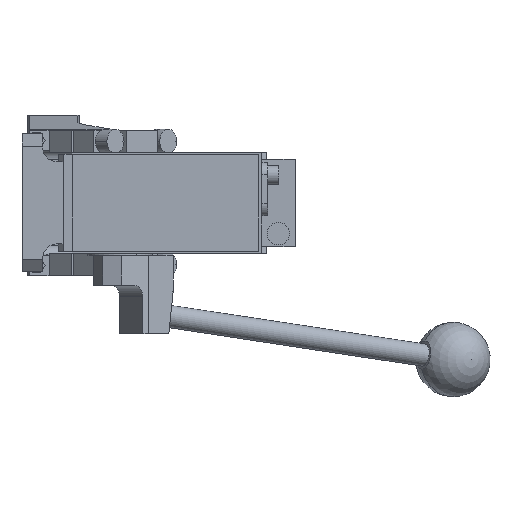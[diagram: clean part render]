
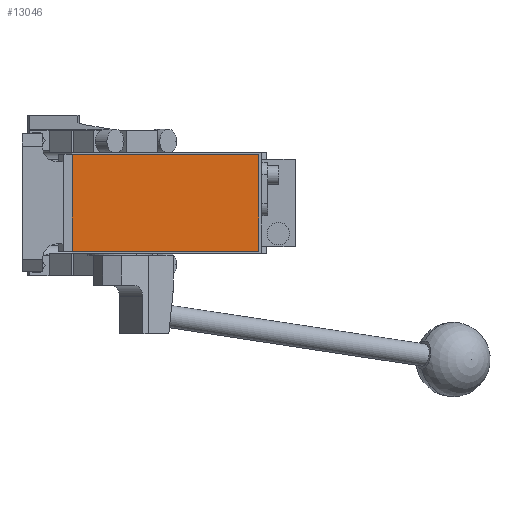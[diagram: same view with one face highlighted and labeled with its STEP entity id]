
A CAD part, front view. The second image highlights one B-rep face of the part: STEP entity #13046.
In plain terms, the highlighted planar face has unit normal (0, -1, 0).
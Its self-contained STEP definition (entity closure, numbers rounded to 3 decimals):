
#102 = VECTOR ( 'NONE', #3456, 1000. ) ;
#895 = VECTOR ( 'NONE', #3961, 1000. ) ;
#1161 = VECTOR ( 'NONE', #9818, 1000. ) ;
#1184 = LINE ( 'NONE', #6143, #895 ) ;
#1386 = CARTESIAN_POINT ( 'NONE',  ( -19., -286.5, -26. ) ) ;
#1446 = CARTESIAN_POINT ( 'NONE',  ( -19., -286.5, -26. ) ) ;
#1495 = VERTEX_POINT ( 'NONE', #4852 ) ;
#2807 = EDGE_CURVE ( 'NONE', #7432, #14443, #11625, .T. ) ;
#3135 = CARTESIAN_POINT ( 'NONE',  ( 0., -286.5, 0. ) ) ;
#3456 = DIRECTION ( 'NONE',  ( -1., 0., 0. ) ) ;
#3547 = LINE ( 'NONE', #12501, #102 ) ;
#3961 = DIRECTION ( 'NONE',  ( 0., 0., 1. ) ) ;
#4031 = VECTOR ( 'NONE', #9115, 1000. ) ;
#4293 = FACE_OUTER_BOUND ( 'NONE', #10679, .T. ) ;
#4747 = VERTEX_POINT ( 'NONE', #12621 ) ;
#4852 = CARTESIAN_POINT ( 'NONE',  ( -19., -286.5, 26. ) ) ;
#5834 = LINE ( 'NONE', #10939, #1161 ) ;
#6143 = CARTESIAN_POINT ( 'NONE',  ( 81., -286.5, 26. ) ) ;
#7432 = VERTEX_POINT ( 'NONE', #1386 ) ;
#7882 = CARTESIAN_POINT ( 'NONE',  ( 81., -286.5, -26. ) ) ;
#9115 = DIRECTION ( 'NONE',  ( 1., 0., 0. ) ) ;
#9406 = DIRECTION ( 'NONE',  ( 0., 0., -1. ) ) ;
#9818 = DIRECTION ( 'NONE',  ( 0., 0., -1. ) ) ;
#10526 = DIRECTION ( 'NONE',  ( 0., -1., 0. ) ) ;
#10679 = EDGE_LOOP ( 'NONE', ( #10757, #12248, #10806, #15104 ) ) ;
#10757 = ORIENTED_EDGE ( 'NONE', *, *, #14683, .T. ) ;
#10806 = ORIENTED_EDGE ( 'NONE', *, *, #16049, .T. ) ;
#10939 = CARTESIAN_POINT ( 'NONE',  ( -19., -286.5, 26. ) ) ;
#11625 = LINE ( 'NONE', #1446, #4031 ) ;
#12248 = ORIENTED_EDGE ( 'NONE', *, *, #2807, .T. ) ;
#12501 = CARTESIAN_POINT ( 'NONE',  ( -19., -286.5, 26. ) ) ;
#12621 = CARTESIAN_POINT ( 'NONE',  ( 81., -286.5, 26. ) ) ;
#13046 = ADVANCED_FACE ( 'NONE', ( #4293 ), #15586, .T. ) ;
#13428 = AXIS2_PLACEMENT_3D ( 'NONE', #3135, #10526, #9406 ) ;
#14443 = VERTEX_POINT ( 'NONE', #7882 ) ;
#14683 = EDGE_CURVE ( 'NONE', #1495, #7432, #5834, .T. ) ;
#15104 = ORIENTED_EDGE ( 'NONE', *, *, #15910, .T. ) ;
#15586 = PLANE ( 'NONE',  #13428 ) ;
#15910 = EDGE_CURVE ( 'NONE', #4747, #1495, #3547, .T. ) ;
#16049 = EDGE_CURVE ( 'NONE', #14443, #4747, #1184, .T. ) ;
